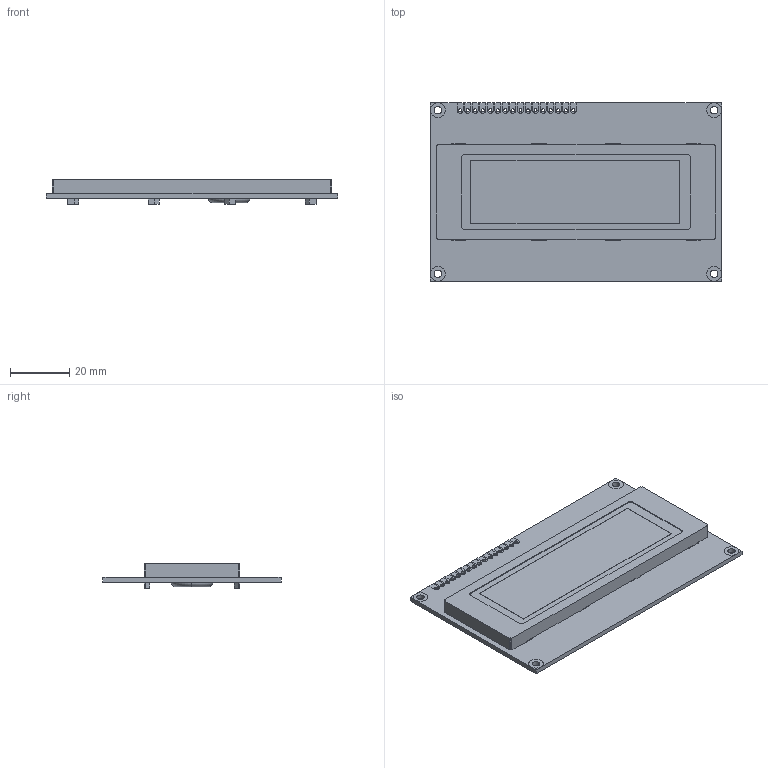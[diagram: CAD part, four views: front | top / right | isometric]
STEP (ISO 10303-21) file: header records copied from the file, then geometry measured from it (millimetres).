
FILE_DESCRIPTION (( 'STEP AP214' ), '1' );
FILE_NAME ('NHD-0420DZW-AY5.STEP', '2017-11-01T20:33:57', ( '' ), ( '' ), 'SwSTEP 2.0', 'SolidWorks 2017', '' );
FILE_SCHEMA (( 'AUTOMOTIVE_DESIGN' ));
Length unit declared in the file: millimetre
Products named in the file (1): NHD-0420DZW-AY5
Bounding box: 98 x 60 x 8.4 mm (x, y, z)
Volume: 23262.7 mm3; surface area: 13929 mm2
Topology: 1 solids, 1 shells, 380 faces, 1082 edges, 700 vertices
Faces by surface type: plane 254, cylinder 124, torus 2
Entity records: 16602 total; most frequent: ORIENTED_EDGE 2164, CARTESIAN_POINT 2163, DIRECTION 2106, EDGE_CURVE 1082, LINE 820, VECTOR 820, VERTEX_POINT 700, AXIS2_PLACEMENT_3D 643
